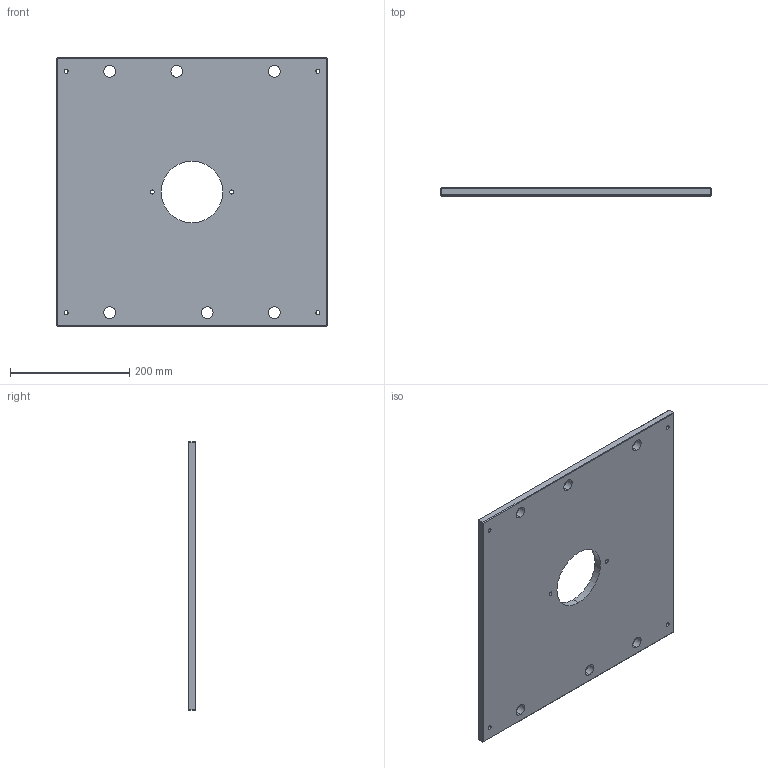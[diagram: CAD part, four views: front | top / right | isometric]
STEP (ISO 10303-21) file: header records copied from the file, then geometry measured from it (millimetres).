
FILE_DESCRIPTION (( 'STEP AP214' ), '1' );
FILE_NAME ('ME-0619-CH-1818-A.STEP', '2020-02-13T09:30:21', ( '' ), ( '' ), 'SwSTEP 2.0', 'SolidWorks 2018', '' );
FILE_SCHEMA (( 'AUTOMOTIVE_DESIGN' ));
Length unit declared in the file: inch
Products named in the file (1): ME-0619-CH-1818-A
Bounding box: 454.02 x 12.7 x 450.85 mm (x, y, z)
Volume: 2462912.6 mm3; surface area: 419118.7 mm2
Topology: 1 solids, 1 shells, 64 faces, 150 edges, 88 vertices
Faces by surface type: cylinder 26, plane 26, cone 12
Entity records: 1902 total; most frequent: DIRECTION 344, CARTESIAN_POINT 303, ORIENTED_EDGE 300, EDGE_CURVE 150, AXIS2_PLACEMENT_3D 129, EDGE_LOOP 90, VERTEX_POINT 88, LINE 86
